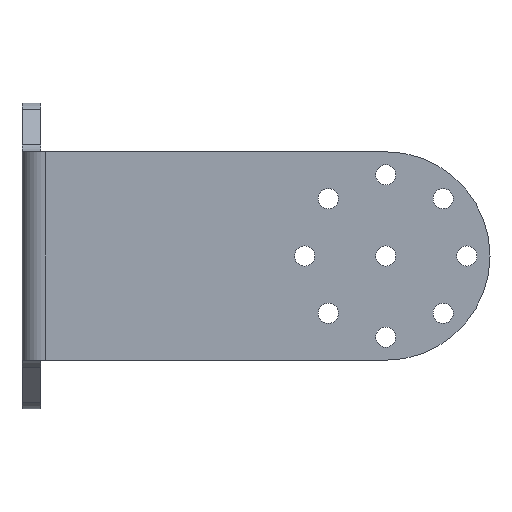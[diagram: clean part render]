
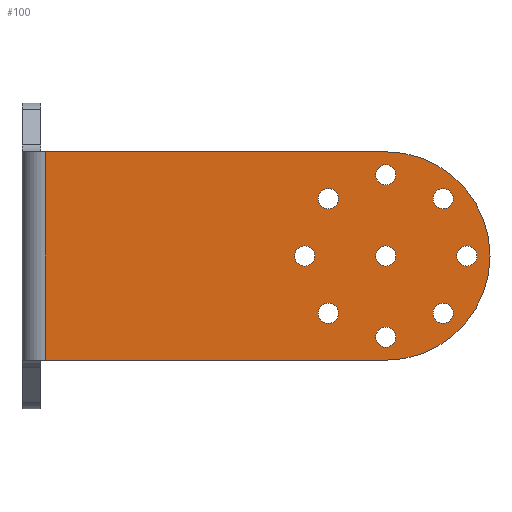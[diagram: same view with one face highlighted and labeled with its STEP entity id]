
A CAD part, left-side view. The second image highlights one B-rep face of the part: STEP entity #100.
In plain terms, the highlighted planar face has unit normal (-1, 0, 0).
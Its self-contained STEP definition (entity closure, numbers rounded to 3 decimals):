
#100=ADVANCED_FACE('',(#360,#361,#362,#363,#364,#365,#366,#367,#368,#369),
#150,.F.);
#150=PLANE('',#1078);
#221=LINE('',#1589,#305);
#222=LINE('',#1592,#306);
#223=LINE('',#1594,#307);
#305=VECTOR('',#1262,1.);
#306=VECTOR('',#1263,1.);
#307=VECTOR('',#1264,1.);
#360=FACE_BOUND('',#414,.T.);
#361=FACE_BOUND('',#415,.T.);
#362=FACE_BOUND('',#416,.T.);
#363=FACE_BOUND('',#417,.T.);
#364=FACE_BOUND('',#418,.T.);
#365=FACE_BOUND('',#419,.T.);
#366=FACE_BOUND('',#420,.T.);
#367=FACE_BOUND('',#421,.T.);
#368=FACE_BOUND('',#422,.T.);
#369=FACE_BOUND('',#423,.T.);
#414=EDGE_LOOP('',(#569,#570,#571,#572));
#415=EDGE_LOOP('',(#573));
#416=EDGE_LOOP('',(#574));
#417=EDGE_LOOP('',(#575));
#418=EDGE_LOOP('',(#576));
#419=EDGE_LOOP('',(#577));
#420=EDGE_LOOP('',(#578));
#421=EDGE_LOOP('',(#579));
#422=EDGE_LOOP('',(#580));
#423=EDGE_LOOP('',(#581));
#569=ORIENTED_EDGE('',*,*,#929,.T.);
#570=ORIENTED_EDGE('',*,*,#930,.T.);
#571=ORIENTED_EDGE('',*,*,#931,.T.);
#572=ORIENTED_EDGE('',*,*,#932,.T.);
#573=ORIENTED_EDGE('',*,*,#933,.F.);
#574=ORIENTED_EDGE('',*,*,#934,.F.);
#575=ORIENTED_EDGE('',*,*,#935,.F.);
#576=ORIENTED_EDGE('',*,*,#936,.F.);
#577=ORIENTED_EDGE('',*,*,#937,.F.);
#578=ORIENTED_EDGE('',*,*,#938,.F.);
#579=ORIENTED_EDGE('',*,*,#939,.F.);
#580=ORIENTED_EDGE('',*,*,#940,.T.);
#581=ORIENTED_EDGE('',*,*,#941,.T.);
#829=VERTEX_POINT('',#1590);
#830=VERTEX_POINT('',#1591);
#831=VERTEX_POINT('',#1593);
#832=VERTEX_POINT('',#1595);
#833=VERTEX_POINT('',#1598);
#834=VERTEX_POINT('',#1600);
#835=VERTEX_POINT('',#1602);
#836=VERTEX_POINT('',#1604);
#837=VERTEX_POINT('',#1606);
#838=VERTEX_POINT('',#1608);
#839=VERTEX_POINT('',#1610);
#840=VERTEX_POINT('',#1612);
#841=VERTEX_POINT('',#1614);
#929=EDGE_CURVE('',#829,#830,#221,.T.);
#930=EDGE_CURVE('',#830,#831,#222,.T.);
#931=EDGE_CURVE('',#831,#832,#223,.T.);
#932=EDGE_CURVE('',#832,#829,#1012,.T.);
#933=EDGE_CURVE('',#833,#833,#1013,.T.);
#934=EDGE_CURVE('',#834,#834,#1014,.T.);
#935=EDGE_CURVE('',#835,#835,#1015,.T.);
#936=EDGE_CURVE('',#836,#836,#1016,.T.);
#937=EDGE_CURVE('',#837,#837,#1017,.T.);
#938=EDGE_CURVE('',#838,#838,#1018,.T.);
#939=EDGE_CURVE('',#839,#839,#1019,.T.);
#940=EDGE_CURVE('',#840,#840,#1020,.T.);
#941=EDGE_CURVE('',#841,#841,#1021,.T.);
#1012=CIRCLE('',#1068,22.5);
#1013=CIRCLE('',#1069,2.175);
#1014=CIRCLE('',#1070,2.175);
#1015=CIRCLE('',#1071,2.175);
#1016=CIRCLE('',#1072,2.175);
#1017=CIRCLE('',#1073,2.175);
#1018=CIRCLE('',#1074,2.175);
#1019=CIRCLE('',#1075,2.175);
#1020=CIRCLE('',#1076,2.175);
#1021=CIRCLE('',#1077,2.175);
#1068=AXIS2_PLACEMENT_3D('',#1596,#1265,#1266);
#1069=AXIS2_PLACEMENT_3D('',#1597,#1267,#1268);
#1070=AXIS2_PLACEMENT_3D('',#1599,#1269,#1270);
#1071=AXIS2_PLACEMENT_3D('',#1601,#1271,#1272);
#1072=AXIS2_PLACEMENT_3D('',#1603,#1273,#1274);
#1073=AXIS2_PLACEMENT_3D('',#1605,#1275,#1276);
#1074=AXIS2_PLACEMENT_3D('',#1607,#1277,#1278);
#1075=AXIS2_PLACEMENT_3D('',#1609,#1279,#1280);
#1076=AXIS2_PLACEMENT_3D('',#1611,#1281,#1282);
#1077=AXIS2_PLACEMENT_3D('',#1613,#1283,#1284);
#1078=AXIS2_PLACEMENT_3D('',#1615,#1285,#1286);
#1262=DIRECTION('',(0.,1.,0.));
#1263=DIRECTION('',(0.,0.,-1.));
#1264=DIRECTION('',(0.,-1.,0.));
#1265=DIRECTION('',(-1.,0.,0.));
#1266=DIRECTION('',(0.,0.,1.));
#1267=DIRECTION('',(-1.,0.,0.));
#1268=DIRECTION('',(0.,-1.,0.));
#1269=DIRECTION('',(-1.,0.,0.));
#1270=DIRECTION('',(0.,0.,1.));
#1271=DIRECTION('',(-1.,0.,0.));
#1272=DIRECTION('',(0.,0.,1.));
#1273=DIRECTION('',(-1.,0.,0.));
#1274=DIRECTION('',(0.,0.,1.));
#1275=DIRECTION('',(-1.,0.,0.));
#1276=DIRECTION('',(0.,0.,1.));
#1277=DIRECTION('',(-1.,0.,0.));
#1278=DIRECTION('',(0.,0.,1.));
#1279=DIRECTION('',(-1.,0.,0.));
#1280=DIRECTION('',(0.,0.,1.));
#1281=DIRECTION('',(1.,0.,0.));
#1282=DIRECTION('',(0.,-1.,0.));
#1283=DIRECTION('',(1.,0.,0.));
#1284=DIRECTION('',(0.,-1.,0.));
#1285=DIRECTION('',(1.,0.,0.));
#1286=DIRECTION('',(0.,1.,0.));
#1589=CARTESIAN_POINT('',(-3.,-1.5,22.5));
#1590=CARTESIAN_POINT('',(-3.,-1.5,22.5));
#1591=CARTESIAN_POINT('',(-3.,72.,22.5));
#1592=CARTESIAN_POINT('',(-3.,72.,33.));
#1593=CARTESIAN_POINT('',(-3.,72.,-22.5));
#1594=CARTESIAN_POINT('',(-3.,85.,-22.5));
#1595=CARTESIAN_POINT('',(-3.,-1.5,-22.5));
#1596=CARTESIAN_POINT('',(-3.,-1.5,0.));
#1597=CARTESIAN_POINT('',(-3.,-1.5,17.5));
#1598=CARTESIAN_POINT('',(-3.,-3.675,17.5));
#1599=CARTESIAN_POINT('',(-3.,-13.874,-12.374));
#1600=CARTESIAN_POINT('',(-3.,-13.874,-10.199));
#1601=CARTESIAN_POINT('',(-3.,-19.,0.));
#1602=CARTESIAN_POINT('',(-3.,-19.,2.175));
#1603=CARTESIAN_POINT('',(-3.,-13.874,12.374));
#1604=CARTESIAN_POINT('',(-3.,-13.874,14.549));
#1605=CARTESIAN_POINT('',(-3.,10.874,-12.374));
#1606=CARTESIAN_POINT('',(-3.,10.874,-10.199));
#1607=CARTESIAN_POINT('',(-3.,16.,0.));
#1608=CARTESIAN_POINT('',(-3.,16.,2.175));
#1609=CARTESIAN_POINT('',(-3.,10.874,12.374));
#1610=CARTESIAN_POINT('',(-3.,10.874,14.549));
#1611=CARTESIAN_POINT('',(-3.,-1.5,-17.5));
#1612=CARTESIAN_POINT('',(-3.,-3.675,-17.5));
#1613=CARTESIAN_POINT('',(-3.,-1.5,0.));
#1614=CARTESIAN_POINT('',(-3.,-3.675,0.));
#1615=CARTESIAN_POINT('',(-3.,77.,33.));
